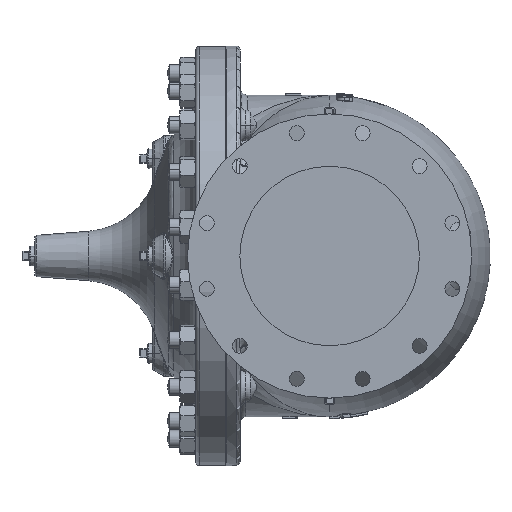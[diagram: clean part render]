
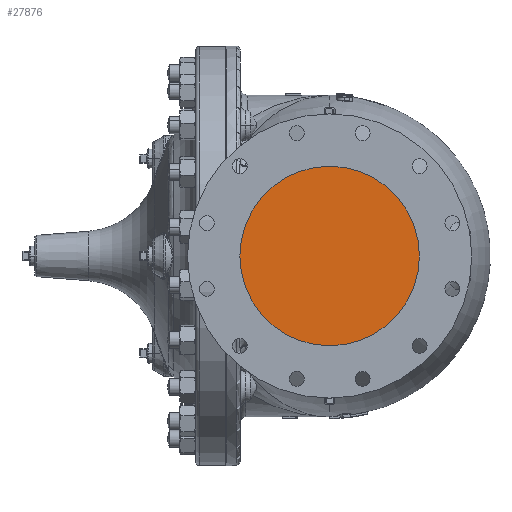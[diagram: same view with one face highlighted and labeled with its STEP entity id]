
A CAD part, left-side view. The second image highlights one B-rep face of the part: STEP entity #27876.
In plain terms, the highlighted planar face has unit normal (-1, 0, 0).
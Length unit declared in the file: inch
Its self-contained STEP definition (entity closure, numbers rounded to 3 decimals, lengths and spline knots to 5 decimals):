
#1849 = AXIS2_PLACEMENT_3D ( 'NONE', #66208, #35005, #3722 ) ;
#2963 = ORIENTED_EDGE ( 'NONE', *, *, #38873, .F. ) ;
#3722 = DIRECTION ( 'NONE',  ( 0., 0., -1. ) ) ;
#4370 = AXIS2_PLACEMENT_3D ( 'NONE', #4617, #51832, #20615 ) ;
#4617 = CARTESIAN_POINT ( 'NONE',  ( -14.5, 0., 0. ) ) ;
#12882 = CARTESIAN_POINT ( 'NONE',  ( -14.5, 0., 0. ) ) ;
#15203 = VERTEX_POINT ( 'NONE', #32662 ) ;
#15344 = PLANE ( 'NONE',  #4370 ) ;
#18144 = DIRECTION ( 'NONE',  ( 0., 0., -1. ) ) ;
#18873 = EDGE_CURVE ( 'NONE', #15203, #67570, #34032, .T. ) ;
#20615 = DIRECTION ( 'NONE',  ( 0., 0., -1. ) ) ;
#27876 = ADVANCED_FACE ( 'NONE', ( #48230 ), #15344, .T. ) ;
#32662 = CARTESIAN_POINT ( 'NONE',  ( -14.5, 0., 6. ) ) ;
#34032 = CIRCLE ( 'NONE', #1849, 6. ) ;
#35005 = DIRECTION ( 'NONE',  ( 1., 0., 0. ) ) ;
#37159 = ORIENTED_EDGE ( 'NONE', *, *, #18873, .F. ) ;
#38873 = EDGE_CURVE ( 'NONE', #67570, #15203, #40228, .T. ) ;
#40228 = CIRCLE ( 'NONE', #44439, 6. ) ;
#43510 = EDGE_LOOP ( 'NONE', ( #37159, #2963 ) ) ;
#44439 = AXIS2_PLACEMENT_3D ( 'NONE', #12882, #49372, #18144 ) ;
#48230 = FACE_OUTER_BOUND ( 'NONE', #43510, .T. ) ;
#49372 = DIRECTION ( 'NONE',  ( 1., 0., 0. ) ) ;
#51832 = DIRECTION ( 'NONE',  ( -1., 0., 0. ) ) ;
#58269 = CARTESIAN_POINT ( 'NONE',  ( -14.5, 0., -6. ) ) ;
#66208 = CARTESIAN_POINT ( 'NONE',  ( -14.5, 0., 0. ) ) ;
#67570 = VERTEX_POINT ( 'NONE', #58269 ) ;
